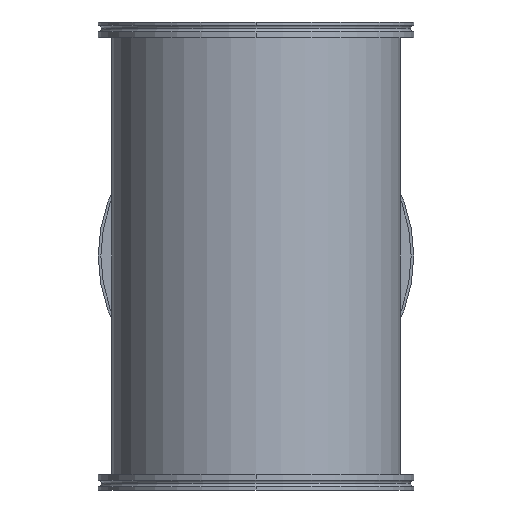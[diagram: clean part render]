
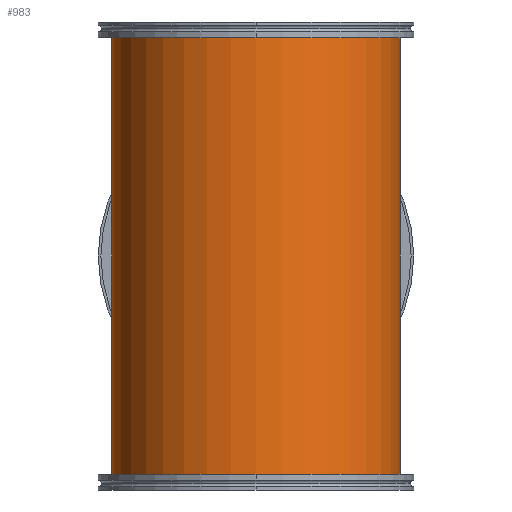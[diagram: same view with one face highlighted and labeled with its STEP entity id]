
A CAD part, front view. The second image highlights one B-rep face of the part: STEP entity #983.
In plain terms, the highlighted cylindrical face has radius 109.55 mm (diameter 219.1 mm), a partial arc.
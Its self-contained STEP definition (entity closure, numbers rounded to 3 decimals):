
#907=CARTESIAN_POINT('',(-109.55,0.,0.0));
#908=VERTEX_POINT('',#907);
#909=CARTESIAN_POINT('',(-109.55,0.0,172.0));
#910=VERTEX_POINT('',#909);
#911=CARTESIAN_POINT('',(-109.55,0.,0.0));
#912=DIRECTION('',(0.0,0.0,1.0));
#913=VECTOR('',#912,172.0);
#914=LINE('',#911,#913);
#915=EDGE_CURVE('',#908,#910,#914,.T.);
#917=CARTESIAN_POINT('',(109.55,0.0,172.0));
#918=VERTEX_POINT('',#917);
#926=CARTESIAN_POINT('',(109.55,0.,0.0));
#927=VERTEX_POINT('',#926);
#928=CARTESIAN_POINT('',(109.55,0.0,172.0));
#929=DIRECTION('',(0.0,0.0,-1.0));
#930=VECTOR('',#929,172.0);
#931=LINE('',#928,#930);
#932=EDGE_CURVE('',#918,#927,#931,.T.);
#944=CARTESIAN_POINT('',(0.0,0.0,0.0));
#945=DIRECTION('',(0.0,0.0,1.0));
#946=DIRECTION('',(-1.0,0.0,0.0));
#947=AXIS2_PLACEMENT_3D('',#944,#945,#946);
#948=CYLINDRICAL_SURFACE('',#947,109.55);
#949=CARTESIAN_POINT('',(-109.55,0.,344.0));
#950=VERTEX_POINT('',#949);
#951=CARTESIAN_POINT('',(-109.55,0.0,172.0));
#952=DIRECTION('',(0.0,0.0,1.0));
#953=VECTOR('',#952,172.0);
#954=LINE('',#951,#953);
#955=EDGE_CURVE('',#910,#950,#954,.T.);
#956=ORIENTED_EDGE('',*,*,#955,.F.);
#957=ORIENTED_EDGE('',*,*,#915,.F.);
#958=CARTESIAN_POINT('',(0.0,0.0,0.0));
#959=DIRECTION('',(0.0,0.0,-1.0));
#960=DIRECTION('',(-1.0,0.0,0.0));
#961=AXIS2_PLACEMENT_3D('',#958,#959,#960);
#962=CIRCLE('',#961,109.55);
#963=EDGE_CURVE('',#927,#908,#962,.T.);
#964=ORIENTED_EDGE('',*,*,#963,.F.);
#965=ORIENTED_EDGE('',*,*,#932,.F.);
#966=CARTESIAN_POINT('',(109.55,0.,344.0));
#967=VERTEX_POINT('',#966);
#968=CARTESIAN_POINT('',(109.55,0.,344.0));
#969=DIRECTION('',(0.0,0.0,-1.0));
#970=VECTOR('',#969,172.0);
#971=LINE('',#968,#970);
#972=EDGE_CURVE('',#967,#918,#971,.T.);
#973=ORIENTED_EDGE('',*,*,#972,.F.);
#974=CARTESIAN_POINT('',(0.0,0.0,344.0));
#975=DIRECTION('',(0.0,0.0,-1.0));
#976=DIRECTION('',(-1.0,0.0,0.0));
#977=AXIS2_PLACEMENT_3D('',#974,#975,#976);
#978=CIRCLE('',#977,109.55);
#979=EDGE_CURVE('',#967,#950,#978,.T.);
#980=ORIENTED_EDGE('',*,*,#979,.T.);
#981=EDGE_LOOP('',(#956,#957,#964,#965,#973,#980));
#982=FACE_OUTER_BOUND('',#981,.T.);
#983=ADVANCED_FACE('',(#982),#948,.T.);
